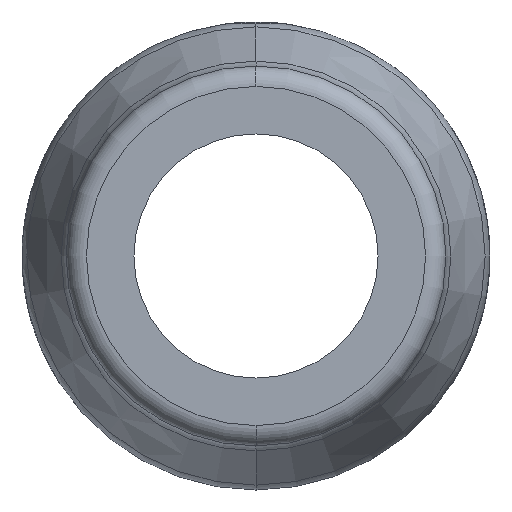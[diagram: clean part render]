
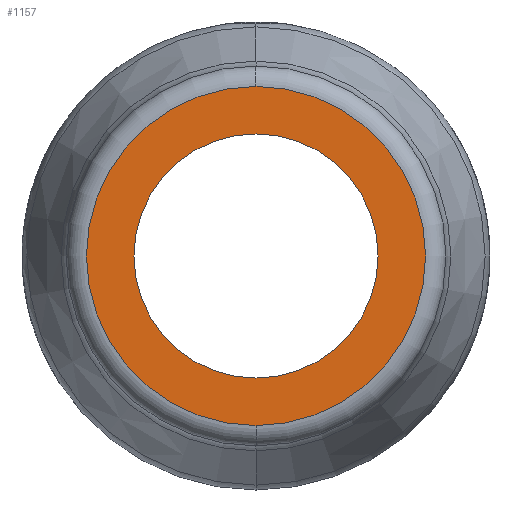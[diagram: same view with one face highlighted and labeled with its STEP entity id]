
A CAD part, left-side view. The second image highlights one B-rep face of the part: STEP entity #1157.
In plain terms, the highlighted planar face has unit normal (-1, 0, 0).
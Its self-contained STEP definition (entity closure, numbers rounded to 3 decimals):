
#55 = CARTESIAN_POINT ( 'NONE',  ( 0., 0., 18. ) ) ;
#165 = CARTESIAN_POINT ( 'NONE',  ( 0., 18., 0. ) ) ;
#200 = CARTESIAN_POINT ( 'NONE',  ( 0., 0., -25. ) ) ;
#222 = ORIENTED_EDGE ( 'NONE', *, *, #1213, .F. ) ;
#321 = EDGE_CURVE ( 'NONE', #1784, #1838, #721, .T. ) ;
#333 = PLANE ( 'NONE',  #406 ) ;
#385 = DIRECTION ( 'NONE',  ( 0., 0., -1. ) ) ;
#406 = AXIS2_PLACEMENT_3D ( 'NONE', #165, #1177, #1327 ) ;
#530 = ORIENTED_EDGE ( 'NONE', *, *, #620, .T. ) ;
#620 = EDGE_CURVE ( 'NONE', #1838, #1784, #1734, .T. ) ;
#640 = CARTESIAN_POINT ( 'NONE',  ( 0., 0., 0. ) ) ;
#721 = CIRCLE ( 'NONE', #1105, 25. ) ;
#760 = EDGE_LOOP ( 'NONE', ( #861, #530 ) ) ;
#767 = EDGE_LOOP ( 'NONE', ( #222, #1866 ) ) ;
#785 = DIRECTION ( 'NONE',  ( 0., 0., 1. ) ) ;
#790 = DIRECTION ( 'NONE',  ( 0., 0., 1. ) ) ;
#796 = CARTESIAN_POINT ( 'NONE',  ( 0., 0., 0. ) ) ;
#808 = AXIS2_PLACEMENT_3D ( 'NONE', #935, #1805, #790 ) ;
#809 = FACE_OUTER_BOUND ( 'NONE', #760, .T. ) ;
#861 = ORIENTED_EDGE ( 'NONE', *, *, #321, .T. ) ;
#935 = CARTESIAN_POINT ( 'NONE',  ( 0., 0., 0. ) ) ;
#939 = CIRCLE ( 'NONE', #1738, 18. ) ;
#941 = DIRECTION ( 'NONE',  ( 0., 0., -1. ) ) ;
#1079 = CARTESIAN_POINT ( 'NONE',  ( 0., 0., -18. ) ) ;
#1105 = AXIS2_PLACEMENT_3D ( 'NONE', #1706, #1592, #385 ) ;
#1157 = ADVANCED_FACE ( 'NONE', ( #809, #1542 ), #333, .F. ) ;
#1177 = DIRECTION ( 'NONE',  ( 1., 0., 0. ) ) ;
#1213 = EDGE_CURVE ( 'NONE', #1574, #1693, #1872, .T. ) ;
#1234 = CARTESIAN_POINT ( 'NONE',  ( 0., 0., 25. ) ) ;
#1269 = AXIS2_PLACEMENT_3D ( 'NONE', #796, #1809, #941 ) ;
#1327 = DIRECTION ( 'NONE',  ( 0., 0., -1. ) ) ;
#1542 = FACE_BOUND ( 'NONE', #767, .T. ) ;
#1574 = VERTEX_POINT ( 'NONE', #55 ) ;
#1592 = DIRECTION ( 'NONE',  ( -1., 0., 0. ) ) ;
#1661 = DIRECTION ( 'NONE',  ( -1., 0., 0. ) ) ;
#1693 = VERTEX_POINT ( 'NONE', #1079 ) ;
#1706 = CARTESIAN_POINT ( 'NONE',  ( 0., 0., 0. ) ) ;
#1734 = CIRCLE ( 'NONE', #1269, 25. ) ;
#1738 = AXIS2_PLACEMENT_3D ( 'NONE', #640, #1661, #785 ) ;
#1768 = EDGE_CURVE ( 'NONE', #1693, #1574, #939, .T. ) ;
#1784 = VERTEX_POINT ( 'NONE', #200 ) ;
#1805 = DIRECTION ( 'NONE',  ( -1., 0., 0. ) ) ;
#1809 = DIRECTION ( 'NONE',  ( -1., 0., 0. ) ) ;
#1838 = VERTEX_POINT ( 'NONE', #1234 ) ;
#1866 = ORIENTED_EDGE ( 'NONE', *, *, #1768, .F. ) ;
#1872 = CIRCLE ( 'NONE', #808, 18. ) ;
